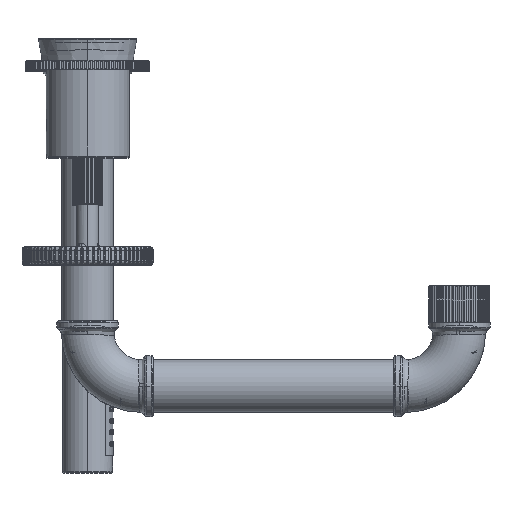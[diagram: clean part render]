
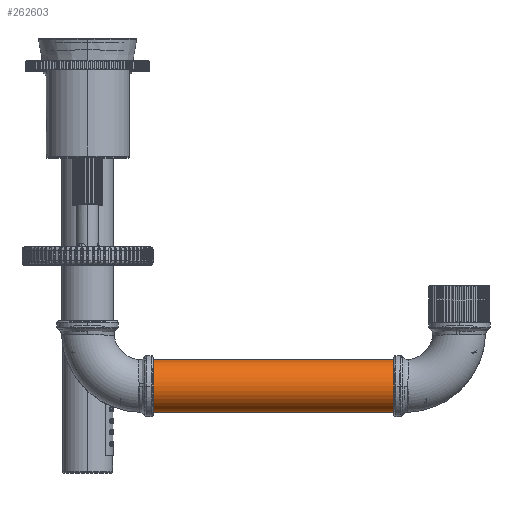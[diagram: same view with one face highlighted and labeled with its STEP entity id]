
A CAD part, top view. The second image highlights one B-rep face of the part: STEP entity #262603.
In plain terms, the highlighted cylindrical face has radius 12 mm (diameter 24 mm), a partial arc.
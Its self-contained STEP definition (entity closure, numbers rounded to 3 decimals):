
#5474 = DIRECTION ( 'NONE',  ( -1., 0., 0. ) ) ;
#6148 = VERTEX_POINT ( 'NONE', #23962 ) ;
#10668 = CARTESIAN_POINT ( 'NONE',  ( 140.5, -156., -280. ) ) ;
#21120 = LINE ( 'NONE', #161843, #222732 ) ;
#22756 = LINE ( 'NONE', #105241, #224184 ) ;
#23962 = CARTESIAN_POINT ( 'NONE',  ( 29.5, -132., -280. ) ) ;
#31693 = ORIENTED_EDGE ( 'NONE', *, *, #135251, .T. ) ;
#38722 = DIRECTION ( 'NONE',  ( 0., 0., 1. ) ) ;
#39655 = EDGE_CURVE ( 'NONE', #186062, #68053, #174759, .T. ) ;
#46075 = CARTESIAN_POINT ( 'NONE',  ( 140.5, -144., -280. ) ) ;
#46426 = ORIENTED_EDGE ( 'NONE', *, *, #66792, .T. ) ;
#46801 = CARTESIAN_POINT ( 'NONE',  ( 29.5, -156., -280. ) ) ;
#49288 = ORIENTED_EDGE ( 'NONE', *, *, #39655, .T. ) ;
#50326 = VERTEX_POINT ( 'NONE', #46801 ) ;
#55603 = EDGE_CURVE ( 'NONE', #212671, #50326, #124664, .T. ) ;
#58130 = AXIS2_PLACEMENT_3D ( 'NONE', #245175, #185582, #143672 ) ;
#59945 = EDGE_CURVE ( 'NONE', #50326, #186062, #21120, .T. ) ;
#65337 = CIRCLE ( 'NONE', #69604, 12. ) ;
#66792 = EDGE_CURVE ( 'NONE', #6148, #212671, #236461, .T. ) ;
#68053 = VERTEX_POINT ( 'NONE', #179633 ) ;
#69604 = AXIS2_PLACEMENT_3D ( 'NONE', #46075, #5474, #189500 ) ;
#79317 = DIRECTION ( 'NONE',  ( 1., 0., 0. ) ) ;
#102247 = CARTESIAN_POINT ( 'NONE',  ( 29.5, -144., -280. ) ) ;
#102617 = CYLINDRICAL_SURFACE ( 'NONE', #251146, 12. ) ;
#103957 = CARTESIAN_POINT ( 'NONE',  ( 152.5, -144., -280. ) ) ;
#105241 = CARTESIAN_POINT ( 'NONE',  ( 152.5, -132., -280. ) ) ;
#124664 = CIRCLE ( 'NONE', #249989, 12. ) ;
#134030 = CARTESIAN_POINT ( 'NONE',  ( 29.5, -144., -268. ) ) ;
#135251 = EDGE_CURVE ( 'NONE', #68053, #243633, #65337, .T. ) ;
#143672 = DIRECTION ( 'NONE',  ( 0., 0., -1. ) ) ;
#145890 = DIRECTION ( 'NONE',  ( 1., 0., 0. ) ) ;
#161843 = CARTESIAN_POINT ( 'NONE',  ( 152.5, -156., -280. ) ) ;
#174759 = CIRCLE ( 'NONE', #58130, 12. ) ;
#175355 = AXIS2_PLACEMENT_3D ( 'NONE', #102247, #79317, #38722 ) ;
#179633 = CARTESIAN_POINT ( 'NONE',  ( 140.5, -144., -268. ) ) ;
#185144 = DIRECTION ( 'NONE',  ( 1., 0., 0. ) ) ;
#185582 = DIRECTION ( 'NONE',  ( -1., 0., 0. ) ) ;
#186062 = VERTEX_POINT ( 'NONE', #10668 ) ;
#186484 = DIRECTION ( 'NONE',  ( 0., -1., 0. ) ) ;
#189500 = DIRECTION ( 'NONE',  ( 0., 0., -1. ) ) ;
#193527 = EDGE_LOOP ( 'NONE', ( #230524, #46426, #246039, #211595, #49288, #31693 ) ) ;
#211595 = ORIENTED_EDGE ( 'NONE', *, *, #59945, .T. ) ;
#212671 = VERTEX_POINT ( 'NONE', #134030 ) ;
#222732 = VECTOR ( 'NONE', #244373, 1000. ) ;
#224184 = VECTOR ( 'NONE', #225740, 1000. ) ;
#225740 = DIRECTION ( 'NONE',  ( 1., 0., 0. ) ) ;
#225750 = EDGE_CURVE ( 'NONE', #6148, #243633, #22756, .T. ) ;
#228430 = DIRECTION ( 'NONE',  ( 0., 0., 1. ) ) ;
#230524 = ORIENTED_EDGE ( 'NONE', *, *, #225750, .F. ) ;
#233910 = CARTESIAN_POINT ( 'NONE',  ( 140.5, -132., -280. ) ) ;
#236461 = CIRCLE ( 'NONE', #175355, 12. ) ;
#243376 = FACE_OUTER_BOUND ( 'NONE', #193527, .T. ) ;
#243633 = VERTEX_POINT ( 'NONE', #233910 ) ;
#244373 = DIRECTION ( 'NONE',  ( 1., 0., 0. ) ) ;
#245175 = CARTESIAN_POINT ( 'NONE',  ( 140.5, -144., -280. ) ) ;
#246039 = ORIENTED_EDGE ( 'NONE', *, *, #55603, .T. ) ;
#249989 = AXIS2_PLACEMENT_3D ( 'NONE', #267675, #145890, #228430 ) ;
#251146 = AXIS2_PLACEMENT_3D ( 'NONE', #103957, #185144, #186484 ) ;
#262603 = ADVANCED_FACE ( 'NONE', ( #243376 ), #102617, .T. ) ;
#267675 = CARTESIAN_POINT ( 'NONE',  ( 29.5, -144., -280. ) ) ;
